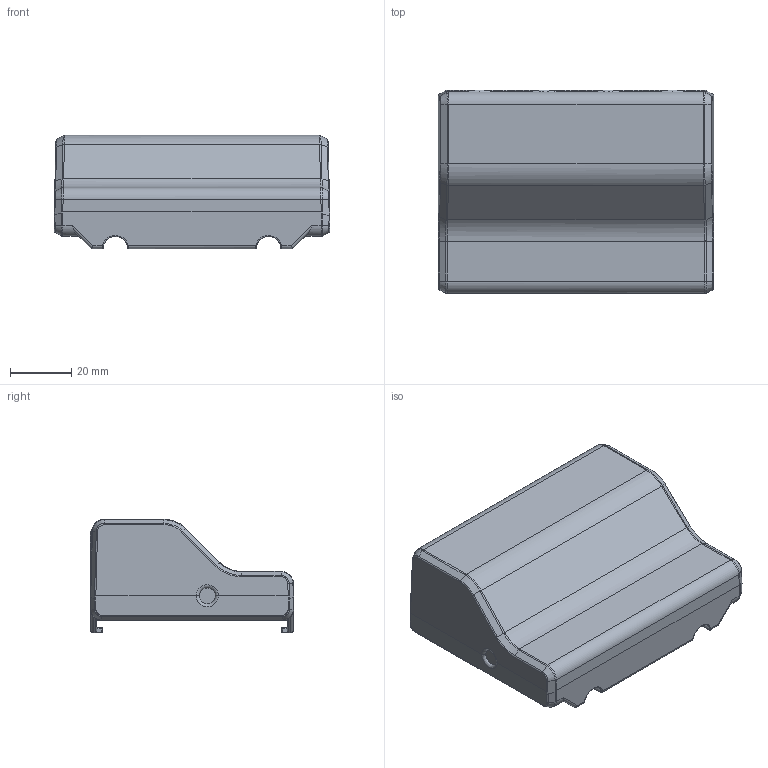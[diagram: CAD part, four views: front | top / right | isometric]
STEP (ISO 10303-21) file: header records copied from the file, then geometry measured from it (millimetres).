
FILE_DESCRIPTION (( 'STEP AP203' ), '1' );
FILE_NAME ('3D_TJB2.STEP', '2014-03-04T06:06:15', ( '' ), ( '' ), 'SwSTEP 2.0', 'SolidWorks 2010', '' );
FILE_SCHEMA (( 'CONFIG_CONTROL_DESIGN' ));
Length unit declared in the file: millimetre
Products named in the file (1): 3D_TJB2
Bounding box: 90 x 66.4 x 37 mm (x, y, z)
Volume: 141438.8 mm3; surface area: 22756.3 mm2
Topology: 1 solids, 1 shells, 281 faces, 665 edges, 386 vertices
Faces by surface type: bspline 103, cylinder 93, plane 85
Entity records: 18512 total; most frequent: CARTESIAN_POINT 13192, ORIENTED_EDGE 1322, EDGE_CURVE 661, DIRECTION 649, B_SPLINE_CURVE_WITH_KNOTS 390, VERTEX_POINT 386, EDGE_LOOP 285, FACE_OUTER_BOUND 281
